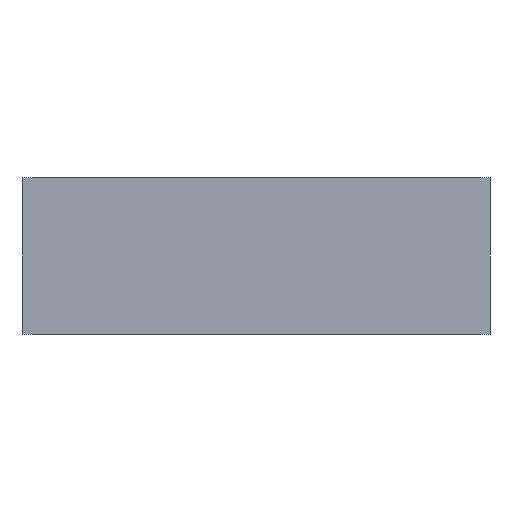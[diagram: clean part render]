
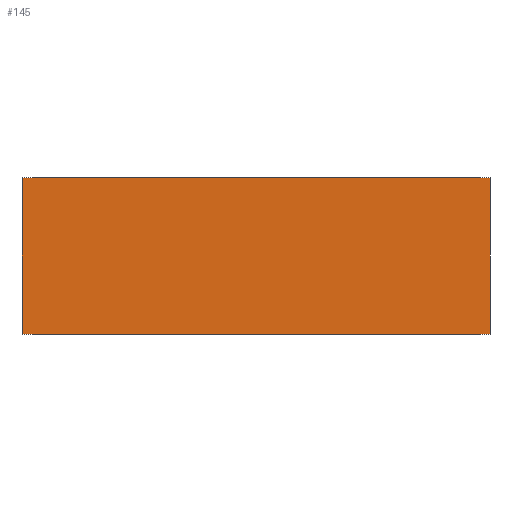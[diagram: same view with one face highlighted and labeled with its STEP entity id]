
A CAD part, front view. The second image highlights one B-rep face of the part: STEP entity #145.
In plain terms, the highlighted planar face has unit normal (0, -1, 0).
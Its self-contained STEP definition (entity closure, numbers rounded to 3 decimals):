
#2 = LINE ( 'NONE', #266, #89 ) ;
#7 = FACE_OUTER_BOUND ( 'NONE', #50, .T. ) ;
#12 = VECTOR ( 'NONE', #252, 1000. ) ;
#13 = LINE ( 'NONE', #271, #46 ) ;
#17 = LINE ( 'NONE', #249, #12 ) ;
#46 = VECTOR ( 'NONE', #272, 1000. ) ;
#50 = EDGE_LOOP ( 'NONE', ( #96, #104, #86, #85 ) ) ;
#61 = VECTOR ( 'NONE', #260, 1000. ) ;
#85 = ORIENTED_EDGE ( 'NONE', *, *, #330, .T. ) ;
#86 = ORIENTED_EDGE ( 'NONE', *, *, #320, .F. ) ;
#89 = VECTOR ( 'NONE', #267, 1000. ) ;
#96 = ORIENTED_EDGE ( 'NONE', *, *, #334, .T. ) ;
#104 = ORIENTED_EDGE ( 'NONE', *, *, #325, .F. ) ;
#118 = LINE ( 'NONE', #259, #61 ) ;
#145 = ADVANCED_FACE ( 'NONE', ( #7 ), #190, .F. ) ;
#153 = VERTEX_POINT ( 'NONE', #214 ) ;
#155 = VERTEX_POINT ( 'NONE', #215 ) ;
#160 = VERTEX_POINT ( 'NONE', #219 ) ;
#164 = VERTEX_POINT ( 'NONE', #223 ) ;
#190 = PLANE ( 'NONE',  #305 ) ;
#193 = CARTESIAN_POINT ( 'NONE',  ( -179., 0., 120. ) ) ;
#199 = DIRECTION ( 'NONE',  ( 0., 1., 0. ) ) ;
#200 = DIRECTION ( 'NONE',  ( -1., 0., 0. ) ) ;
#214 = CARTESIAN_POINT ( 'NONE',  ( -179., 0., 0. ) ) ;
#215 = CARTESIAN_POINT ( 'NONE',  ( 179., 0., 0. ) ) ;
#219 = CARTESIAN_POINT ( 'NONE',  ( -179., 0., 120. ) ) ;
#223 = CARTESIAN_POINT ( 'NONE',  ( 179., 0., 120. ) ) ;
#249 = CARTESIAN_POINT ( 'NONE',  ( -179., 0., 120. ) ) ;
#252 = DIRECTION ( 'NONE',  ( 1., 0., 0. ) ) ;
#259 = CARTESIAN_POINT ( 'NONE',  ( 179., 0., 120. ) ) ;
#260 = DIRECTION ( 'NONE',  ( 0., 0., -1. ) ) ;
#266 = CARTESIAN_POINT ( 'NONE',  ( -179., 0., 120. ) ) ;
#267 = DIRECTION ( 'NONE',  ( 0., 0., -1. ) ) ;
#271 = CARTESIAN_POINT ( 'NONE',  ( -179., 0., 0. ) ) ;
#272 = DIRECTION ( 'NONE',  ( 1., 0., 0. ) ) ;
#305 = AXIS2_PLACEMENT_3D ( 'NONE', #193, #199, #200 ) ;
#320 = EDGE_CURVE ( 'NONE', #160, #164, #17, .T. ) ;
#325 = EDGE_CURVE ( 'NONE', #164, #155, #118, .T. ) ;
#330 = EDGE_CURVE ( 'NONE', #160, #153, #2, .T. ) ;
#334 = EDGE_CURVE ( 'NONE', #153, #155, #13, .T. ) ;
